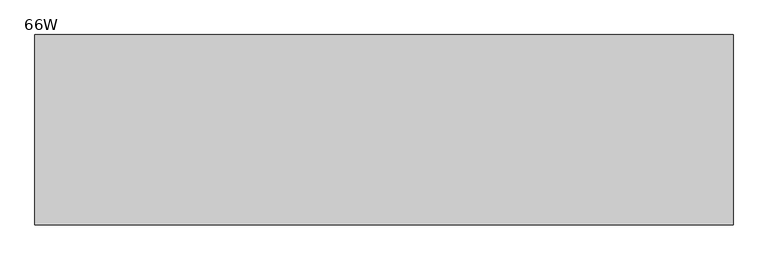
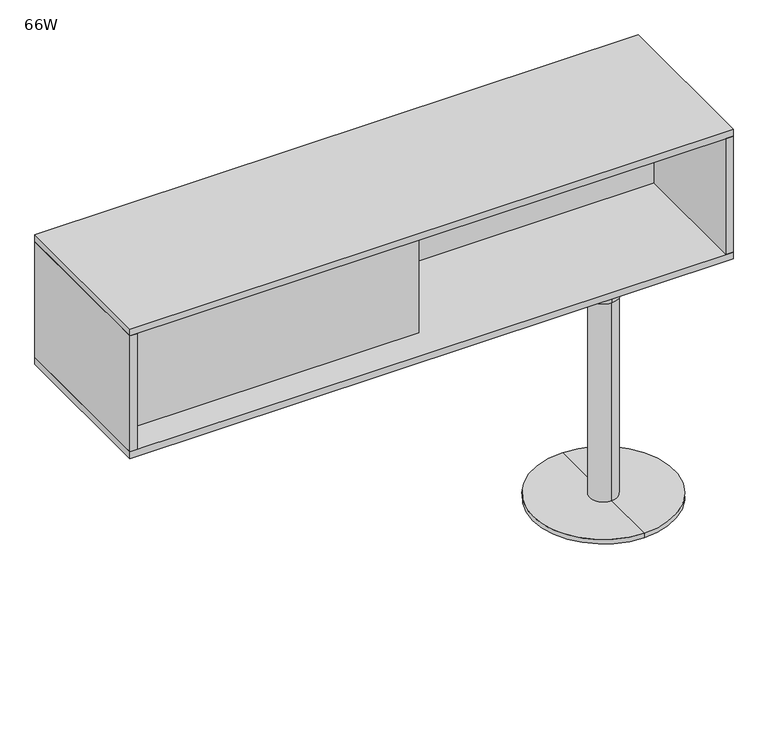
"""IFC4 building model written with IfcOpenShell, lengths in millimetres: furniture geometry, Steelcase - Duo Storage - For Use with Answer Junction - Tall Storage with Leg - Shared : 66W."""

from ifc_helpers import new_model, si_unit, frame, origin, place, context, project, spatial, polyline, circle_curve, outline, extrude, source, transform, mapped, element, save
from ifc_brep_helpers import plane_surface, cylinder_surface, advanced_brep


def furniture_66w_7eafc7d5(model_context):
    return source(origin(), model_context, "Body", "SolidModel", [
        advanced_brep(
        [(1447.8, 196.1389534, 0.0), (1447.8, -196.1389534, 0.0), (1447.8, -196.1389534, 12.7), (1447.8, 196.1389534, 12.7), (1447.8, 0.0, 0.0), (1447.8, 41.4195882, 758.952), (1447.8, -41.4195882, 758.952), (1447.8, 0.0, 758.952), (1447.8, 41.4195882, 596.9), (1447.8, -41.4195882, 596.9), (1447.8, 38.1, 596.9), (1447.8, -38.1, 596.9), (1447.8, 38.1, 12.7), (1447.8, -38.1, 12.7)],
        [
            (0, 1, circle_curve(frame((1447.8, 0.0, 0.0), z_axis=(0.0, 0.0, 1.0), x_axis=(0.0, -1.0, 0.0)), 196.1389534)),
            (1, 2),
            (2, 3, circle_curve(frame((1447.8, 0.0, 12.7), z_axis=(0.0, 0.0, -1.0), x_axis=(0.0, -1.0, 0.0)), 196.1389534)),
            (3, 0),
            (1, 0, circle_curve(frame((1447.8, 0.0, 0.0), z_axis=(0.0, 0.0, 1.0), x_axis=(0.0, -1.0, 0.0)), 196.1389534)),
            (3, 2, circle_curve(frame((1447.8, 0.0, 12.7), z_axis=(0.0, 0.0, -1.0), x_axis=(0.0, -1.0, 0.0)), 196.1389534)),
            (4, 1),
            (0, 4),
            (5, 6, circle_curve(frame((1447.8, 0.0, 758.952), z_axis=(0.0, 0.0, 1.0), x_axis=(0.0, -1.0, 0.0)), 41.4195882)),
            (6, 7),
            (7, 5),
            (6, 5, circle_curve(frame((1447.8, 0.0, 758.952), z_axis=(0.0, 0.0, 1.0), x_axis=(0.0, -1.0, 0.0)), 41.4195882)),
            (8, 9, circle_curve(frame((1447.8, 0.0, 596.9), z_axis=(0.0, 0.0, 1.0), x_axis=(0.0, -1.0, 0.0)), 41.4195882)),
            (9, 6),
            (5, 8),
            (9, 8, circle_curve(frame((1447.8, 0.0, 596.9), z_axis=(0.0, 0.0, 1.0), x_axis=(0.0, -1.0, 0.0)), 41.4195882)),
            (10, 11, circle_curve(frame((1447.8, 0.0, 596.9), z_axis=(0.0, 0.0, 1.0), x_axis=(0.0, -1.0, 0.0)), 38.1)),
            (11, 9),
            (8, 10),
            (11, 10, circle_curve(frame((1447.8, 0.0, 596.9), z_axis=(0.0, 0.0, 1.0), x_axis=(0.0, -1.0, 0.0)), 38.1)),
            (12, 13, circle_curve(frame((1447.8, 0.0, 12.7), z_axis=(0.0, 0.0, 1.0), x_axis=(0.0, -1.0, 0.0)), 38.1)),
            (13, 11),
            (10, 12),
            (13, 12, circle_curve(frame((1447.8, 0.0, 12.7), z_axis=(0.0, 0.0, 1.0), x_axis=(0.0, -1.0, 0.0)), 38.1)),
            (2, 13),
            (12, 3),
        ],
        [
            cylinder_surface(frame((1447.8, 0.0, 581.025), z_axis=(0.0, 0.0, -1.0), x_axis=(0.0, -1.0, 0.0)), 196.1389534),
            plane_surface(frame((1447.8, 0.0, 0.0), z_axis=(0.0, 0.0, -1.0), x_axis=(0.0, -1.0, 0.0))),
            plane_surface(frame((1447.8, 0.0, 758.952), z_axis=(0.0, 0.0, 1.0), x_axis=(0.0, -1.0, 0.0))),
            cylinder_surface(frame((1447.8, 0.0, 581.025), z_axis=(0.0, 0.0, -1.0), x_axis=(0.0, -1.0, 0.0)), 41.4195882),
            plane_surface(frame((1447.8, 0.0, 596.9), z_axis=(0.0, 0.0, -1.0), x_axis=(0.0, -1.0, 0.0))),
            cylinder_surface(frame((1447.8, 0.0, 581.025), z_axis=(0.0, 0.0, -1.0), x_axis=(0.0, -1.0, 0.0)), 38.1),
            plane_surface(frame((1447.8, 0.0, 12.7), z_axis=(0.0, 0.0, 1.0), x_axis=(0.0, -1.0, 0.0))),
        ],
        [
            (0, [[1, 2, 3, 4]]),
            (0, [[5, -4, 6, -2]]),
            (1, [[7, -1, 8]]),
            (1, [[-8, -5, -7]]),
            (2, [[9, 10, 11]]),
            (2, [[12, -11, -10]]),
            (3, [[13, 14, -9, 15]]),
            (3, [[16, -15, -12, -14]]),
            (4, [[17, 18, -13, 19]]),
            (4, [[20, -19, -16, -18]]),
            (5, [[21, 22, -17, 23]]),
            (5, [[24, -23, -20, -22]]),
            (6, [[-3, 25, -21, 26]]),
            (6, [[-6, -26, -24, -25]]),
        ],
    ),
        extrude(outline(polyline([(20.32, -143.5099817), (20.32, -116.6876), (824.7886649, -116.6876), (824.7886649, 143.5100085), (1656.0797287, 143.5100085), (1656.0797287, 116.6876268), (851.6110466, 116.6876268), (851.6110466, -143.5099817), (20.32, -143.5099817)])), frame((0.0, 0.0, 779.8307207), z_axis=(0.0, 0.0, 1.0), x_axis=(1.0, 0.0, 0.0)), (0.0, 0.0, 1.0), 339.8012793),
        extrude(outline(polyline([(1676.4, 228.6), (1676.4, -228.6), (1656.0797287, -228.6), (1656.0797287, 228.6), (1676.4, 228.6)])), frame((0.0, 0.0, 779.2719806), z_axis=(0.0, 0.0, 1.0), x_axis=(1.0, 0.0, 0.0)), (0.0, 0.0, 1.0), 340.3600194),
        extrude(outline(polyline([(20.32, 228.6), (20.32, -228.6), (0.0, -228.6), (0.0, 228.6), (20.32, 228.6)])), frame((0.0, 0.0, 779.2719806), z_axis=(0.0, 0.0, 1.0), x_axis=(1.0, 0.0, 0.0)), (0.0, 0.0, 1.0), 340.3600194),
        extrude(outline(polyline([(1676.4, 228.6), (1676.4, -228.6), (0.0, -228.6), (0.0, 228.6), (1676.4, 228.6)])), frame((0.0, 0.0, 1119.632), z_axis=(0.0, 0.0, 1.0), x_axis=(1.0, 0.0, 0.0)), (0.0, 0.0, 1.0), 20.32),
        extrude(outline(polyline([(1676.4, 228.6), (1676.4, -228.6), (0.0, -228.6), (0.0, 228.6), (1676.4, 228.6)])), frame((0.0, 0.0, 758.952), z_axis=(0.0, 0.0, 1.0), x_axis=(1.0, 0.0, 0.0)), (0.0, 0.0, 1.0), 20.3199806),
    ])


if __name__ == "__main__":
    model = new_model("IFC4")
    model_context = context("Model", 3, world=origin())
    ifc_project = project(units=[si_unit("LENGTHUNIT", "METRE", prefix="MILLI")], contexts=[model_context])
    site = spatial("IfcSite", under=ifc_project)
    building = spatial("IfcBuilding", under=site)
    placement = place(None, origin())
    furniture_66w_shape = furniture_66w_7eafc7d5(model_context)
    element("IfcFurniture", 1, ObjectType="Steelcase - Duo Storage - For Use with Answer Junction - Tall Storage with Leg - Shared : 66W", at=placement, inside=building, context=model_context, shape_type="MappedRepresentation", body=[
        mapped(furniture_66w_shape, transform((0.0, 0.0, 0.0), x_axis=(1.0, 0.0, 0.0), y_axis=(0.0, 1.0, 0.0), z_axis=(0.0, 0.0, 1.0))),
    ])
    save(model, "model.ifc")
